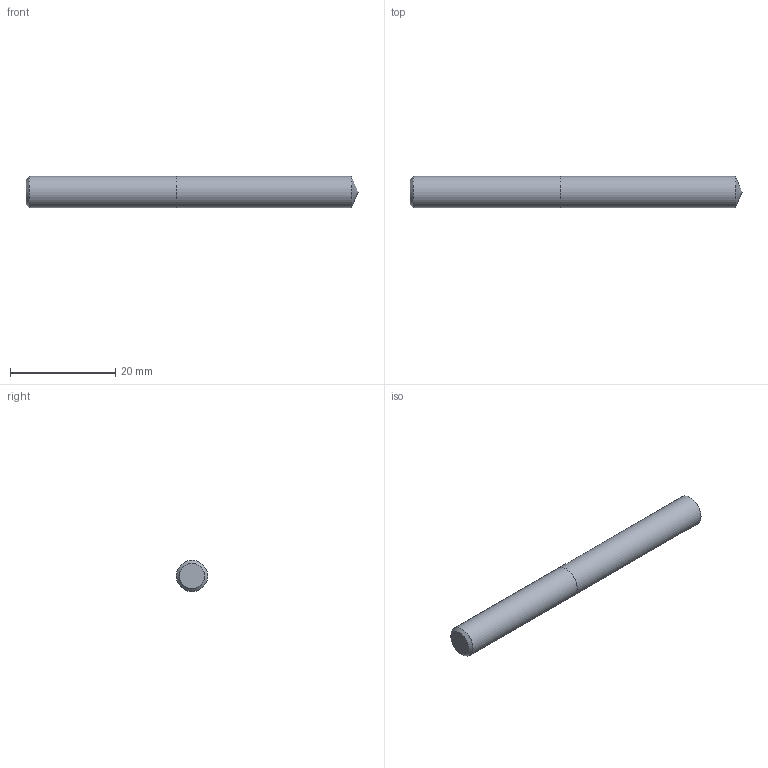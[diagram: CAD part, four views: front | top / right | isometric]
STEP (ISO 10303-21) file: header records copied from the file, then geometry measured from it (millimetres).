
FILE_DESCRIPTION (( 'STEP AP214' ), '1' );
FILE_NAME ('03-2317.STEP', '2022-06-15T23:14:25', ( 'USER' ), ( '' ), 'SwSTEP 2.0', 'SolidWorks 2018', '' );
FILE_SCHEMA (( 'AUTOMOTIVE_DESIGN' ));
Length unit declared in the file: inch
Products named in the file (1): 03-2317
Bounding box: 63.14 x 5.94 x 5.94 mm (x, y, z)
Volume: 1726.1 mm3; surface area: 1262.4 mm2
Topology: 2 solids, 2 shells, 7 faces, 11 edges, 7 vertices
Faces by surface type: plane 3, cylinder 2, cone 2
Full cylindrical faces by diameter (mm): 5.944 x2
Entity records: 214 total; most frequent: DIRECTION 26, CARTESIAN_POINT 18, AXIS2_PLACEMENT_3D 13, EDGE_LOOP 10, ORIENTED_EDGE 10, FACE_OUTER_BOUND 9, ADVANCED_FACE 7, UNCERTAINTY_MEASURE_WITH_UNIT 7
